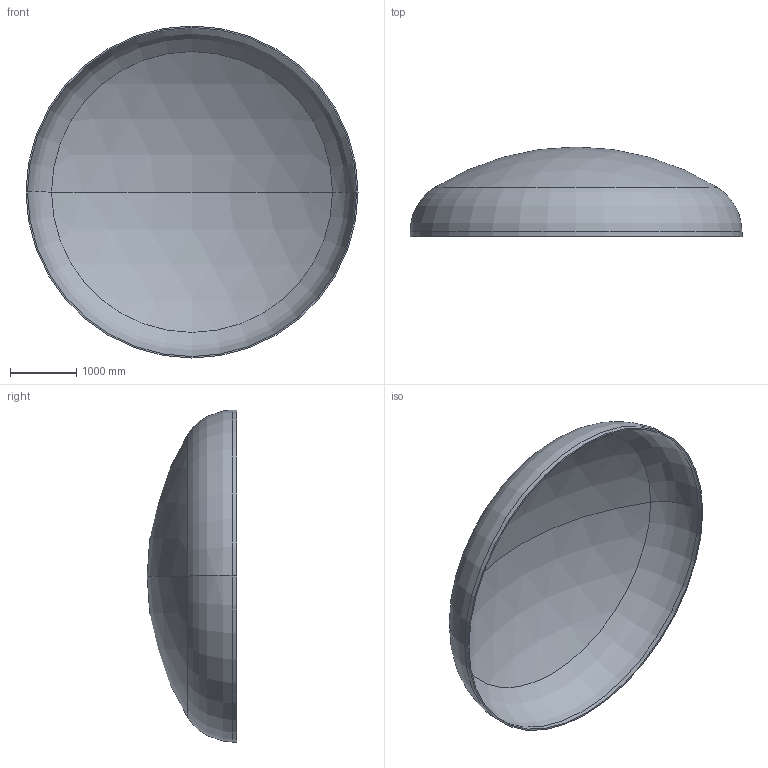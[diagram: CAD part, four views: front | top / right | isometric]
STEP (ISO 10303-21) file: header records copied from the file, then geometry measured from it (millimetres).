
FILE_DESCRIPTION (( 'STEP AP203' ), '1' );
FILE_NAME ('DIN 28013 Korbbogenform_-_Boden DIN 28013 - 5000 x 70 - I - s=22.step', '2016-07-02T00:13:15', ( '' ), ( '' ), 'SwSTEP 2.0', 'SolidWorks 2013', '' );
FILE_SCHEMA (( 'CONFIG_CONTROL_DESIGN' ));
Length unit declared in the file: millimetre
Products named in the file (1): DIN 28013 Korbbogenform_-_Boden DIN 28013 - 5000 x 70 - I - s=22
Bounding box: 5000 x 1350.53 x 5000 mm (x, y, z)
Volume: 618911177.4 mm3; surface area: 56609698.4 mm2
Topology: 1 solids, 1 shells, 13 faces, 24 edges, 14 vertices
Faces by surface type: torus 4, cylinder 4, sphere 4, plane 1
Entity records: 407 total; most frequent: DIRECTION 72, CARTESIAN_POINT 52, ORIENTED_EDGE 48, AXIS2_PLACEMENT_3D 34, EDGE_CURVE 24, CIRCLE 20, VERTEX_POINT 14, EDGE_LOOP 14
